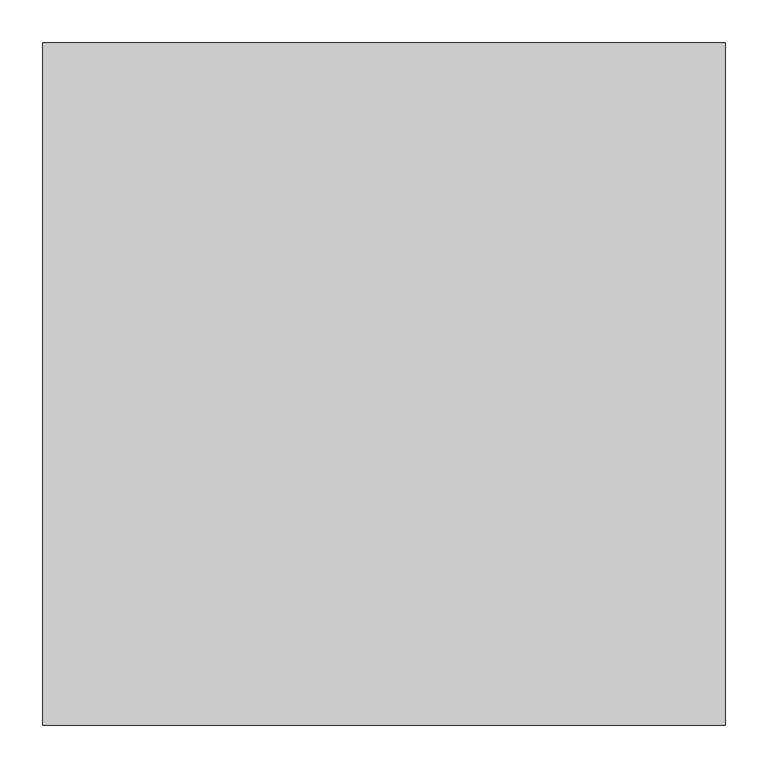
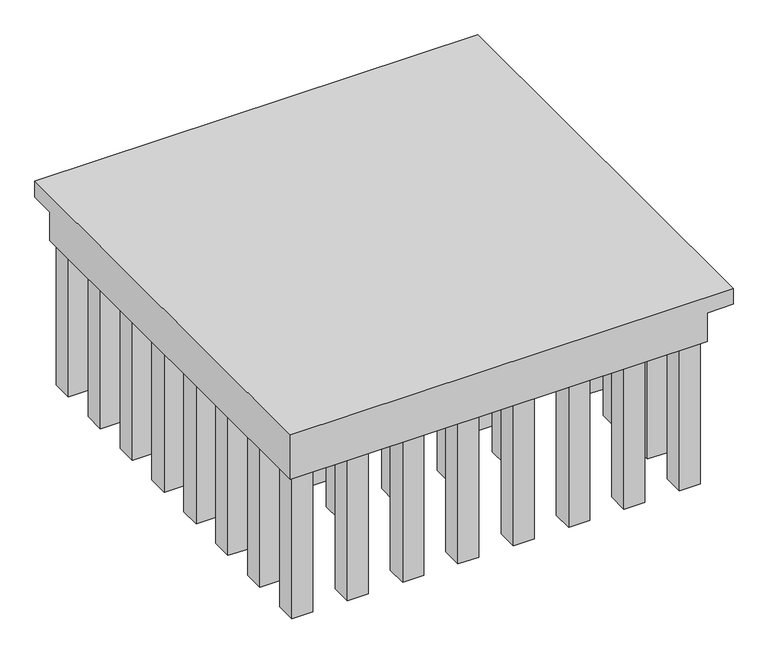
"""IFC4 building model written with IfcOpenShell, lengths in millimetres: proxy geometry, RSK LT Element : RSK LT Element."""

from ifc_helpers import new_model, si_unit, origin, place, context, project, spatial, faceted_brep, source, transform, mapped, element, save


def generic_models_e933ea50(model_context):
    return source(origin(), model_context, "Body", "Brep", [
        faceted_brep([(0.0, 0.0, 357.5), (0.0, -800.0, 357.5), (800.0, -800.0, 357.5), (800.0, 0.0, 357.5), (800.0, -800.0, 327.5), (752.9058726, -800.0, 327.5), (752.9058726, -47.0941274, 327.5), (0.0, -47.0941274, 327.5), (0.0, 0.0, 327.5), (800.0, 0.0, 327.5), (0.0, -800.0, 272.5), (752.9058726, -800.0, 272.5), (0.0, -47.0941274, 272.5), (752.9058726, -47.0941274, 272.5), (706.0, -756.0, 272.5), (706.0, -794.0, 272.5), (744.0, -794.0, 272.5), (744.0, -756.0, 272.5), (606.0, -756.0, 272.5), (606.0, -794.0, 272.5), (644.0, -794.0, 272.5), (644.0, -756.0, 272.5), (506.0, -756.0, 272.5), (506.0, -794.0, 272.5), (544.0, -794.0, 272.5), (544.0, -756.0, 272.5), (406.0, -756.0, 272.5), (406.0, -794.0, 272.5), (444.0, -794.0, 272.5), (444.0, -756.0, 272.5), (306.0, -756.0, 272.5), (306.0, -794.0, 272.5), (344.0, -794.0, 272.5), (344.0, -756.0, 272.5), (206.0, -756.0, 272.5), (206.0, -794.0, 272.5), (244.0, -794.0, 272.5), (244.0, -756.0, 272.5), (106.0, -756.0, 272.5), (106.0, -794.0, 272.5), (144.0, -794.0, 272.5), (144.0, -756.0, 272.5), (6.0, -756.0, 272.5), (6.0, -794.0, 272.5), (44.0, -794.0, 272.5), (44.0, -756.0, 272.5), (6.0, -656.0, 272.5), (6.0, -694.0, 272.5), (44.0, -694.0, 272.5), (44.0, -656.0, 272.5), (6.0, -556.0, 272.5), (6.0, -594.0, 272.5), (44.0, -594.0, 272.5), (44.0, -556.0, 272.5), (6.0, -456.0, 272.5), (6.0, -494.0, 272.5), (44.0, -494.0, 272.5), (44.0, -456.0, 272.5), (6.0, -356.0, 272.5), (6.0, -394.0, 272.5), (44.0, -394.0, 272.5), (44.0, -356.0, 272.5), (6.0, -256.0, 272.5), (6.0, -294.0, 272.5), (44.0, -294.0, 272.5), (44.0, -256.0, 272.5), (6.0, -156.0, 272.5), (6.0, -194.0, 272.5), (44.0, -194.0, 272.5), (44.0, -156.0, 272.5), (6.0, -56.0, 272.5), (6.0, -94.0, 272.5), (44.0, -94.0, 272.5), (44.0, -56.0, 272.5), (106.0, -56.0, 272.5), (106.0, -94.0, 272.5), (144.0, -94.0, 272.5), (144.0, -56.0, 272.5), (206.0, -256.0, 272.5), (206.0, -294.0, 272.5), (244.0, -294.0, 272.5), (244.0, -256.0, 272.5), (306.0, -256.0, 272.5), (306.0, -294.0, 272.5), (344.0, -294.0, 272.5), (344.0, -256.0, 272.5), (206.0, -356.0, 272.5), (206.0, -394.0, 272.5), (244.0, -394.0, 272.5), (244.0, -356.0, 272.5), (206.0, -456.0, 272.5), (206.0, -494.0, 272.5), (244.0, -494.0, 272.5), (244.0, -456.0, 272.5), (206.0, -556.0, 272.5), (206.0, -594.0, 272.5), (244.0, -594.0, 272.5), (244.0, -556.0, 272.5), (306.0, -556.0, 272.5), (306.0, -594.0, 272.5), (344.0, -594.0, 272.5), (344.0, -556.0, 272.5), (406.0, -556.0, 272.5), (406.0, -594.0, 272.5), (444.0, -594.0, 272.5), (444.0, -556.0, 272.5), (506.0, -556.0, 272.5), (506.0, -594.0, 272.5), (544.0, -594.0, 272.5), (544.0, -556.0, 272.5), (506.0, -456.0, 272.5), (506.0, -494.0, 272.5), (544.0, -494.0, 272.5), (544.0, -456.0, 272.5), (506.0, -356.0, 272.5), (506.0, -394.0, 272.5), (544.0, -394.0, 272.5), (544.0, -356.0, 272.5), (506.0, -256.0, 272.5), (506.0, -294.0, 272.5), (544.0, -294.0, 272.5), (544.0, -256.0, 272.5), (406.0, -256.0, 272.5), (406.0, -294.0, 272.5), (444.0, -294.0, 272.5), (444.0, -256.0, 272.5), (706.0, -656.0, 272.5), (706.0, -694.0, 272.5), (744.0, -694.0, 272.5), (744.0, -656.0, 272.5), (706.0, -556.0, 272.5), (706.0, -594.0, 272.5), (744.0, -594.0, 272.5), (744.0, -556.0, 272.5), (706.0, -456.0, 272.5), (706.0, -494.0, 272.5), (744.0, -494.0, 272.5), (744.0, -456.0, 272.5), (706.0, -356.0, 272.5), (706.0, -394.0, 272.5), (744.0, -394.0, 272.5), (744.0, -356.0, 272.5), (706.0, -256.0, 272.5), (706.0, -294.0, 272.5), (744.0, -294.0, 272.5), (744.0, -256.0, 272.5), (706.0, -156.0, 272.5), (706.0, -194.0, 272.5), (744.0, -194.0, 272.5), (744.0, -156.0, 272.5), (706.0, -56.0, 272.5), (706.0, -94.0, 272.5), (744.0, -94.0, 272.5), (744.0, -56.0, 272.5), (606.0, -56.0, 272.5), (606.0, -94.0, 272.5), (644.0, -94.0, 272.5), (644.0, -56.0, 272.5), (506.0, -56.0, 272.5), (506.0, -94.0, 272.5), (544.0, -94.0, 272.5), (544.0, -56.0, 272.5), (406.0, -56.0, 272.5), (406.0, -94.0, 272.5), (444.0, -94.0, 272.5), (444.0, -56.0, 272.5), (306.0, -56.0, 272.5), (306.0, -94.0, 272.5), (344.0, -94.0, 272.5), (344.0, -56.0, 272.5), (206.0, -56.0, 272.5), (206.0, -94.0, 272.5), (244.0, -94.0, 272.5), (244.0, -56.0, 272.5), (706.0, -756.0, 0.0), (744.0, -756.0, 0.0), (744.0, -794.0, 0.0), (706.0, -794.0, 0.0), (606.0, -756.0, 0.0), (644.0, -756.0, 0.0), (644.0, -794.0, 0.0), (606.0, -794.0, 0.0), (506.0, -756.0, 0.0), (544.0, -756.0, 0.0), (544.0, -794.0, 0.0), (506.0, -794.0, 0.0), (406.0, -756.0, 0.0), (444.0, -756.0, 0.0), (444.0, -794.0, 0.0), (406.0, -794.0, 0.0), (306.0, -756.0, 0.0), (344.0, -756.0, 0.0), (344.0, -794.0, 0.0), (306.0, -794.0, 0.0), (206.0, -756.0, 0.0), (244.0, -756.0, 0.0), (244.0, -794.0, 0.0), (206.0, -794.0, 0.0), (106.0, -756.0, 0.0), (144.0, -756.0, 0.0), (144.0, -794.0, 0.0), (106.0, -794.0, 0.0), (6.0, -756.0, 0.0), (44.0, -756.0, 0.0), (44.0, -794.0, 0.0), (6.0, -794.0, 0.0), (6.0, -656.0, 0.0), (44.0, -656.0, 0.0), (44.0, -694.0, 0.0), (6.0, -694.0, 0.0), (6.0, -556.0, 0.0), (44.0, -556.0, 0.0), (44.0, -594.0, 0.0), (6.0, -594.0, 0.0), (6.0, -456.0, 0.0), (44.0, -456.0, 0.0), (44.0, -494.0, 0.0), (6.0, -494.0, 0.0), (6.0, -356.0, 0.0), (44.0, -356.0, 0.0), (44.0, -394.0, 0.0), (6.0, -394.0, 0.0), (6.0, -256.0, 0.0), (44.0, -256.0, 0.0), (44.0, -294.0, 0.0), (6.0, -294.0, 0.0), (6.0, -156.0, 0.0), (44.0, -156.0, 0.0), (44.0, -194.0, 0.0), (6.0, -194.0, 0.0), (6.0, -56.0, 0.0), (44.0, -56.0, 0.0), (44.0, -94.0, 0.0), (6.0, -94.0, 0.0), (106.0, -56.0, 0.0), (144.0, -56.0, 0.0), (144.0, -94.0, 0.0), (106.0, -94.0, 0.0), (206.0, -256.0, 0.0), (244.0, -256.0, 0.0), (244.0, -294.0, 0.0), (206.0, -294.0, 0.0), (306.0, -256.0, 0.0), (344.0, -256.0, 0.0), (344.0, -294.0, 0.0), (306.0, -294.0, 0.0), (206.0, -356.0, 0.0), (244.0, -356.0, 0.0), (244.0, -394.0, 0.0), (206.0, -394.0, 0.0), (206.0, -456.0, 0.0), (244.0, -456.0, 0.0), (244.0, -494.0, 0.0), (206.0, -494.0, 0.0), (206.0, -556.0, 0.0), (244.0, -556.0, 0.0), (244.0, -594.0, 0.0), (206.0, -594.0, 0.0), (306.0, -556.0, 0.0), (344.0, -556.0, 0.0), (344.0, -594.0, 0.0), (306.0, -594.0, 0.0), (406.0, -556.0, 0.0), (444.0, -556.0, 0.0), (444.0, -594.0, 0.0), (406.0, -594.0, 0.0), (506.0, -556.0, 0.0), (544.0, -556.0, 0.0), (544.0, -594.0, 0.0), (506.0, -594.0, 0.0), (506.0, -456.0, 0.0), (544.0, -456.0, 0.0), (544.0, -494.0, 0.0), (506.0, -494.0, 0.0), (506.0, -356.0, 0.0), (544.0, -356.0, 0.0), (544.0, -394.0, 0.0), (506.0, -394.0, 0.0), (506.0, -256.0, 0.0), (544.0, -256.0, 0.0), (544.0, -294.0, 0.0), (506.0, -294.0, 0.0), (406.0, -256.0, 0.0), (444.0, -256.0, 0.0), (444.0, -294.0, 0.0), (406.0, -294.0, 0.0), (706.0, -656.0, 0.0), (744.0, -656.0, 0.0), (744.0, -694.0, 0.0), (706.0, -694.0, 0.0), (706.0, -556.0, 0.0), (744.0, -556.0, 0.0), (744.0, -594.0, 0.0), (706.0, -594.0, 0.0), (706.0, -456.0, 0.0), (744.0, -456.0, 0.0), (744.0, -494.0, 0.0), (706.0, -494.0, 0.0), (706.0, -356.0, 0.0), (744.0, -356.0, 0.0), (744.0, -394.0, 0.0), (706.0, -394.0, 0.0), (706.0, -256.0, 0.0), (744.0, -256.0, 0.0), (744.0, -294.0, 0.0), (706.0, -294.0, 0.0), (706.0, -156.0, 0.0), (744.0, -156.0, 0.0), (744.0, -194.0, 0.0), (706.0, -194.0, 0.0), (706.0, -56.0, 0.0), (744.0, -56.0, 0.0), (744.0, -94.0, 0.0), (706.0, -94.0, 0.0), (606.0, -56.0, 0.0), (644.0, -56.0, 0.0), (644.0, -94.0, 0.0), (606.0, -94.0, 0.0), (506.0, -56.0, 0.0), (544.0, -56.0, 0.0), (544.0, -94.0, 0.0), (506.0, -94.0, 0.0), (406.0, -56.0, 0.0), (444.0, -56.0, 0.0), (444.0, -94.0, 0.0), (406.0, -94.0, 0.0), (306.0, -56.0, 0.0), (344.0, -56.0, 0.0), (344.0, -94.0, 0.0), (306.0, -94.0, 0.0), (206.0, -56.0, 0.0), (244.0, -56.0, 0.0), (244.0, -94.0, 0.0), (206.0, -94.0, 0.0)], [[[0, 1, 2, 3]], [[4, 5, 6, 7, 8, 9]], [[3, 9, 8, 0]], [[2, 4, 9, 3]], [[1, 10, 11, 5, 4, 2]], [[0, 8, 7, 12, 10, 1]], [[12, 13, 11, 10], [14, 15, 16, 17], [18, 19, 20, 21], [22, 23, 24, 25], [26, 27, 28, 29], [30, 31, 32, 33], [34, 35, 36, 37], [38, 39, 40, 41], [42, 43, 44, 45], [46, 47, 48, 49], [50, 51, 52, 53], [54, 55, 56, 57], [58, 59, 60, 61], [62, 63, 64, 65], [66, 67, 68, 69], [70, 71, 72, 73], [74, 75, 76, 77], [78, 79, 80, 81], [82, 83, 84, 85], [86, 87, 88, 89], [90, 91, 92, 93], [94, 95, 96, 97], [98, 99, 100, 101], [102, 103, 104, 105], [106, 107, 108, 109], [110, 111, 112, 113], [114, 115, 116, 117], [118, 119, 120, 121], [122, 123, 124, 125], [126, 127, 128, 129], [130, 131, 132, 133], [134, 135, 136, 137], [138, 139, 140, 141], [142, 143, 144, 145], [146, 147, 148, 149], [150, 151, 152, 153], [154, 155, 156, 157], [158, 159, 160, 161], [162, 163, 164, 165], [166, 167, 168, 169], [170, 171, 172, 173]], [[12, 7, 6, 13]], [[13, 6, 5, 11]], [[174, 175, 176, 177]], [[174, 14, 17, 175]], [[175, 17, 16, 176]], [[176, 16, 15, 177]], [[177, 15, 14, 174]], [[178, 179, 180, 181]], [[178, 18, 21, 179]], [[179, 21, 20, 180]], [[180, 20, 19, 181]], [[181, 19, 18, 178]], [[182, 183, 184, 185]], [[182, 22, 25, 183]], [[183, 25, 24, 184]], [[184, 24, 23, 185]], [[185, 23, 22, 182]], [[186, 187, 188, 189]], [[186, 26, 29, 187]], [[187, 29, 28, 188]], [[188, 28, 27, 189]], [[189, 27, 26, 186]], [[190, 191, 192, 193]], [[190, 30, 33, 191]], [[191, 33, 32, 192]], [[192, 32, 31, 193]], [[193, 31, 30, 190]], [[194, 195, 196, 197]], [[194, 34, 37, 195]], [[195, 37, 36, 196]], [[196, 36, 35, 197]], [[197, 35, 34, 194]], [[198, 199, 200, 201]], [[198, 38, 41, 199]], [[199, 41, 40, 200]], [[200, 40, 39, 201]], [[201, 39, 38, 198]], [[202, 203, 204, 205]], [[202, 42, 45, 203]], [[203, 45, 44, 204]], [[204, 44, 43, 205]], [[205, 43, 42, 202]], [[206, 207, 208, 209]], [[206, 46, 49, 207]], [[207, 49, 48, 208]], [[208, 48, 47, 209]], [[209, 47, 46, 206]], [[210, 211, 212, 213]], [[210, 50, 53, 211]], [[211, 53, 52, 212]], [[212, 52, 51, 213]], [[213, 51, 50, 210]], [[214, 215, 216, 217]], [[214, 54, 57, 215]], [[215, 57, 56, 216]], [[216, 56, 55, 217]], [[217, 55, 54, 214]], [[218, 219, 220, 221]], [[218, 58, 61, 219]], [[219, 61, 60, 220]], [[220, 60, 59, 221]], [[221, 59, 58, 218]], [[222, 223, 224, 225]], [[222, 62, 65, 223]], [[223, 65, 64, 224]], [[224, 64, 63, 225]], [[225, 63, 62, 222]], [[226, 227, 228, 229]], [[226, 66, 69, 227]], [[227, 69, 68, 228]], [[228, 68, 67, 229]], [[229, 67, 66, 226]], [[230, 231, 232, 233]], [[230, 70, 73, 231]], [[231, 73, 72, 232]], [[232, 72, 71, 233]], [[233, 71, 70, 230]], [[234, 235, 236, 237]], [[234, 74, 77, 235]], [[235, 77, 76, 236]], [[236, 76, 75, 237]], [[237, 75, 74, 234]], [[238, 239, 240, 241]], [[238, 78, 81, 239]], [[239, 81, 80, 240]], [[240, 80, 79, 241]], [[241, 79, 78, 238]], [[242, 243, 244, 245]], [[242, 82, 85, 243]], [[243, 85, 84, 244]], [[244, 84, 83, 245]], [[245, 83, 82, 242]], [[246, 247, 248, 249]], [[246, 86, 89, 247]], [[247, 89, 88, 248]], [[248, 88, 87, 249]], [[249, 87, 86, 246]], [[250, 251, 252, 253]], [[250, 90, 93, 251]], [[251, 93, 92, 252]], [[252, 92, 91, 253]], [[253, 91, 90, 250]], [[254, 255, 256, 257]], [[254, 94, 97, 255]], [[255, 97, 96, 256]], [[256, 96, 95, 257]], [[257, 95, 94, 254]], [[258, 259, 260, 261]], [[258, 98, 101, 259]], [[259, 101, 100, 260]], [[260, 100, 99, 261]], [[261, 99, 98, 258]], [[262, 263, 264, 265]], [[262, 102, 105, 263]], [[263, 105, 104, 264]], [[264, 104, 103, 265]], [[265, 103, 102, 262]], [[266, 267, 268, 269]], [[266, 106, 109, 267]], [[267, 109, 108, 268]], [[268, 108, 107, 269]], [[269, 107, 106, 266]], [[270, 271, 272, 273]], [[270, 110, 113, 271]], [[271, 113, 112, 272]], [[272, 112, 111, 273]], [[273, 111, 110, 270]], [[274, 275, 276, 277]], [[274, 114, 117, 275]], [[275, 117, 116, 276]], [[276, 116, 115, 277]], [[277, 115, 114, 274]], [[278, 279, 280, 281]], [[278, 118, 121, 279]], [[279, 121, 120, 280]], [[280, 120, 119, 281]], [[281, 119, 118, 278]], [[282, 283, 284, 285]], [[282, 122, 125, 283]], [[283, 125, 124, 284]], [[284, 124, 123, 285]], [[285, 123, 122, 282]], [[286, 287, 288, 289]], [[286, 126, 129, 287]], [[287, 129, 128, 288]], [[288, 128, 127, 289]], [[289, 127, 126, 286]], [[290, 291, 292, 293]], [[290, 130, 133, 291]], [[291, 133, 132, 292]], [[292, 132, 131, 293]], [[293, 131, 130, 290]], [[294, 295, 296, 297]], [[294, 134, 137, 295]], [[295, 137, 136, 296]], [[296, 136, 135, 297]], [[297, 135, 134, 294]], [[298, 299, 300, 301]], [[298, 138, 141, 299]], [[299, 141, 140, 300]], [[300, 140, 139, 301]], [[301, 139, 138, 298]], [[302, 303, 304, 305]], [[302, 142, 145, 303]], [[303, 145, 144, 304]], [[304, 144, 143, 305]], [[305, 143, 142, 302]], [[306, 307, 308, 309]], [[306, 146, 149, 307]], [[307, 149, 148, 308]], [[308, 148, 147, 309]], [[309, 147, 146, 306]], [[310, 311, 312, 313]], [[310, 150, 153, 311]], [[311, 153, 152, 312]], [[312, 152, 151, 313]], [[313, 151, 150, 310]], [[314, 315, 316, 317]], [[314, 154, 157, 315]], [[315, 157, 156, 316]], [[316, 156, 155, 317]], [[317, 155, 154, 314]], [[318, 319, 320, 321]], [[318, 158, 161, 319]], [[319, 161, 160, 320]], [[320, 160, 159, 321]], [[321, 159, 158, 318]], [[322, 323, 324, 325]], [[322, 162, 165, 323]], [[323, 165, 164, 324]], [[324, 164, 163, 325]], [[325, 163, 162, 322]], [[326, 327, 328, 329]], [[326, 166, 169, 327]], [[327, 169, 168, 328]], [[328, 168, 167, 329]], [[329, 167, 166, 326]], [[330, 331, 332, 333]], [[330, 170, 173, 331]], [[331, 173, 172, 332]], [[332, 172, 171, 333]], [[333, 171, 170, 330]]]),
    ])


if __name__ == "__main__":
    model = new_model("IFC4")
    model_context = context("Model", 3, world=origin())
    ifc_project = project(units=[si_unit("LENGTHUNIT", "METRE", prefix="MILLI")], contexts=[model_context])
    site = spatial("IfcSite", under=ifc_project)
    building = spatial("IfcBuilding", under=site)
    placement = place(None, origin())
    generic_models_shape = generic_models_e933ea50(model_context)
    element("IfcBuildingElementProxy", 1, Name="RSK LT Element : RSK LT Element", ObjectType="RSK LT Element : RSK LT Element", at=placement, inside=building, context=model_context, shape_type="MappedRepresentation", body=[
        mapped(generic_models_shape, transform((0.0, 0.0, 0.0), x_axis=(1.0, 0.0, 0.0), y_axis=(0.0, 1.0, 0.0), z_axis=(0.0, 0.0, 1.0))),
    ])
    save(model, "model.ifc")
